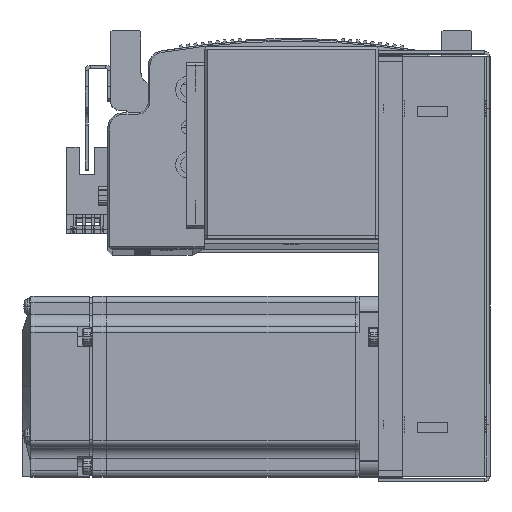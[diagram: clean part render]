
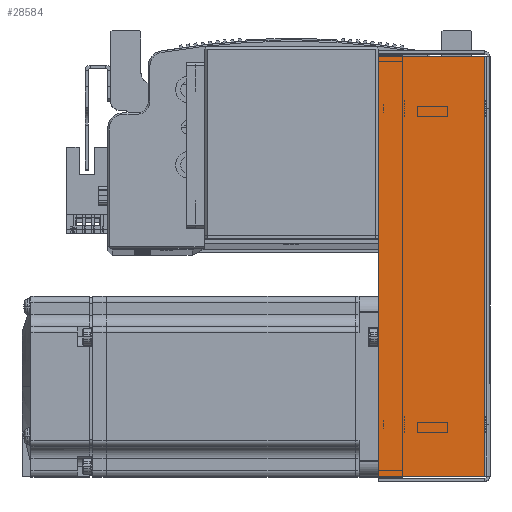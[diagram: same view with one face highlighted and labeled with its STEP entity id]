
A CAD part, top view. The second image highlights one B-rep face of the part: STEP entity #28584.
In plain terms, the highlighted planar face has unit normal (0, 0, 1).
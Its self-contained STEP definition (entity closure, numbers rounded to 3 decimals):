
#7780 = CARTESIAN_POINT ( 'NONE',  ( -69.793, 36., 33.5 ) ) ;
#11002 = VERTEX_POINT ( 'NONE', #53531 ) ;
#11136 = VERTEX_POINT ( 'NONE', #53563 ) ;
#11274 = VERTEX_POINT ( 'NONE', #53599 ) ;
#13866 = FACE_OUTER_BOUND ( 'NONE', #91423, .T. ) ;
#21213 = EDGE_CURVE ( 'NONE', #11002, #35377, #89930, .T. ) ;
#21243 = EDGE_CURVE ( 'NONE', #11136, #11274, #90098, .T. ) ;
#21257 = EDGE_CURVE ( 'NONE', #11136, #11002, #90086, .T. ) ;
#21266 = EDGE_CURVE ( 'NONE', #11274, #35377, #90088, .T. ) ;
#25145 = DIRECTION ( 'NONE',  ( 0., 0., -1. ) ) ;
#25148 = PLANE ( 'NONE',  #48183 ) ;
#25159 = DIRECTION ( 'NONE',  ( -1., 0., 0. ) ) ;
#25182 = CARTESIAN_POINT ( 'NONE',  ( 0., 0., 33.5 ) ) ;
#28584 = ADVANCED_FACE ( 'NONE', ( #13866 ), #25148, .F. ) ;
#35377 = VERTEX_POINT ( 'NONE', #7780 ) ;
#48183 = AXIS2_PLACEMENT_3D ( 'NONE', #25182, #25145, #25159 ) ;
#53531 = CARTESIAN_POINT ( 'NONE',  ( 69.793, 36., 33.5 ) ) ;
#53563 = CARTESIAN_POINT ( 'NONE',  ( 69.793, 0.737, 33.5 ) ) ;
#53599 = CARTESIAN_POINT ( 'NONE',  ( -69.793, 0.737, 33.5 ) ) ;
#58063 = ORIENTED_EDGE ( 'NONE', *, *, #21243, .F. ) ;
#58077 = ORIENTED_EDGE ( 'NONE', *, *, #21213, .T. ) ;
#58096 = ORIENTED_EDGE ( 'NONE', *, *, #21257, .T. ) ;
#58157 = ORIENTED_EDGE ( 'NONE', *, *, #21266, .F. ) ;
#72905 = DIRECTION ( 'NONE',  ( -1., 0., 0. ) ) ;
#72937 = CARTESIAN_POINT ( 'NONE',  ( 0., 36., 33.5 ) ) ;
#73197 = CARTESIAN_POINT ( 'NONE',  ( -71.5, 0.737, 33.5 ) ) ;
#73209 = DIRECTION ( 'NONE',  ( -1., 0., 0. ) ) ;
#73251 = CARTESIAN_POINT ( 'NONE',  ( -69.793, 0., 33.5 ) ) ;
#73277 = DIRECTION ( 'NONE',  ( 0., 1., 0. ) ) ;
#73299 = CARTESIAN_POINT ( 'NONE',  ( 69.793, 0., 33.5 ) ) ;
#73313 = DIRECTION ( 'NONE',  ( 0., 1., 0. ) ) ;
#89930 = LINE ( 'NONE', #72937, #89940 ) ;
#89940 = VECTOR ( 'NONE', #72905, 1000. ) ;
#90024 = VECTOR ( 'NONE', #73277, 1000. ) ;
#90052 = VECTOR ( 'NONE', #73313, 1000. ) ;
#90086 = LINE ( 'NONE', #73299, #90052 ) ;
#90088 = LINE ( 'NONE', #73251, #90024 ) ;
#90098 = LINE ( 'NONE', #73197, #90118 ) ;
#90118 = VECTOR ( 'NONE', #73209, 1000. ) ;
#91423 = EDGE_LOOP ( 'NONE', ( #58063, #58096, #58077, #58157 ) ) ;
